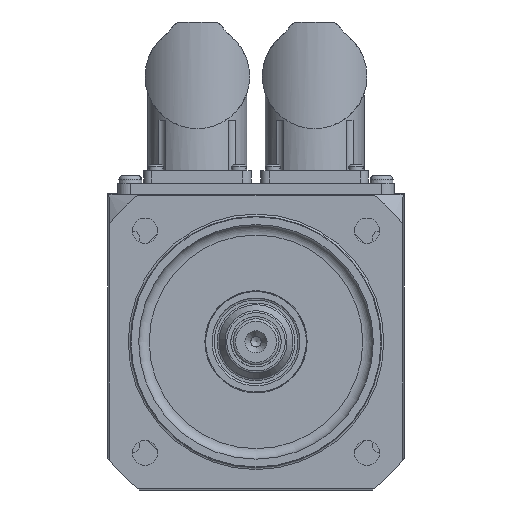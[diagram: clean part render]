
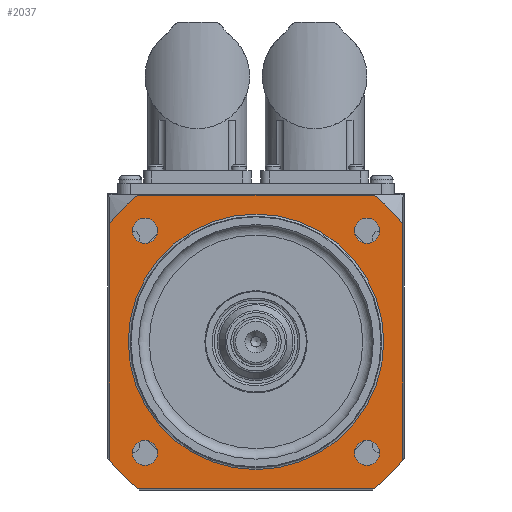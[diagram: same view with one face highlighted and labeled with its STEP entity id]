
A CAD part, front view. The second image highlights one B-rep face of the part: STEP entity #2037.
In plain terms, the highlighted planar face has unit normal (0, -1, 0).
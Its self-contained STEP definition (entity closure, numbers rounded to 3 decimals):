
#2037=ADVANCED_FACE('',(#6043,#3410,#6044,#6045,#6046,#6047),#3124,.T.);
#3124=PLANE('',#18810);
#3410=FACE_OUTER_BOUND('',#6695,.T.);
#4337=LINE('',#26301,#5191);
#4338=LINE('',#26305,#5192);
#4339=LINE('',#26309,#5193);
#4340=LINE('',#26313,#5194);
#5191=VECTOR('',#21060,1.);
#5192=VECTOR('',#21063,1.);
#5193=VECTOR('',#21066,1.);
#5194=VECTOR('',#21069,1.);
#6043=FACE_BOUND('',#6694,.T.);
#6044=FACE_BOUND('',#6696,.T.);
#6045=FACE_BOUND('',#6697,.T.);
#6046=FACE_BOUND('',#6698,.T.);
#6047=FACE_BOUND('',#6699,.T.);
#6694=EDGE_LOOP('',(#8287));
#6695=EDGE_LOOP('',(#8288,#8289,#8290,#8291,#8292,#8293,#8294,#8295));
#6696=EDGE_LOOP('',(#8296));
#6697=EDGE_LOOP('',(#8297));
#6698=EDGE_LOOP('',(#8298));
#6699=EDGE_LOOP('',(#8299));
#8287=ORIENTED_EDGE('',*,*,#15190,.T.);
#8288=ORIENTED_EDGE('',*,*,#15191,.T.);
#8289=ORIENTED_EDGE('',*,*,#15192,.T.);
#8290=ORIENTED_EDGE('',*,*,#15193,.T.);
#8291=ORIENTED_EDGE('',*,*,#15194,.T.);
#8292=ORIENTED_EDGE('',*,*,#15195,.T.);
#8293=ORIENTED_EDGE('',*,*,#15196,.T.);
#8294=ORIENTED_EDGE('',*,*,#15197,.T.);
#8295=ORIENTED_EDGE('',*,*,#15198,.F.);
#8296=ORIENTED_EDGE('',*,*,#15199,.T.);
#8297=ORIENTED_EDGE('',*,*,#15200,.T.);
#8298=ORIENTED_EDGE('',*,*,#15201,.T.);
#8299=ORIENTED_EDGE('',*,*,#15202,.T.);
#13373=VERTEX_POINT('',#26297);
#13374=VERTEX_POINT('',#26299);
#13375=VERTEX_POINT('',#26300);
#13376=VERTEX_POINT('',#26302);
#13377=VERTEX_POINT('',#26304);
#13378=VERTEX_POINT('',#26306);
#13379=VERTEX_POINT('',#26308);
#13380=VERTEX_POINT('',#26310);
#13381=VERTEX_POINT('',#26312);
#13382=VERTEX_POINT('',#26315);
#13383=VERTEX_POINT('',#26317);
#13384=VERTEX_POINT('',#26319);
#13385=VERTEX_POINT('',#26321);
#15190=EDGE_CURVE('',#13373,#13373,#17713,.T.);
#15191=EDGE_CURVE('',#13374,#13375,#17714,.T.);
#15192=EDGE_CURVE('',#13375,#13376,#4337,.T.);
#15193=EDGE_CURVE('',#13376,#13377,#17715,.T.);
#15194=EDGE_CURVE('',#13377,#13378,#4338,.T.);
#15195=EDGE_CURVE('',#13378,#13379,#17716,.T.);
#15196=EDGE_CURVE('',#13379,#13380,#4339,.T.);
#15197=EDGE_CURVE('',#13380,#13381,#17717,.T.);
#15198=EDGE_CURVE('',#13374,#13381,#4340,.T.);
#15199=EDGE_CURVE('',#13382,#13382,#17718,.T.);
#15200=EDGE_CURVE('',#13383,#13383,#17719,.T.);
#15201=EDGE_CURVE('',#13384,#13384,#17720,.T.);
#15202=EDGE_CURVE('',#13385,#13385,#17721,.T.);
#17713=CIRCLE('',#18801,30.5);
#17714=CIRCLE('',#18802,45.);
#17715=CIRCLE('',#18803,45.);
#17716=CIRCLE('',#18804,45.);
#17717=CIRCLE('',#18805,45.);
#17718=CIRCLE('',#18806,3.);
#17719=CIRCLE('',#18807,3.);
#17720=CIRCLE('',#18808,3.);
#17721=CIRCLE('',#18809,3.);
#18801=AXIS2_PLACEMENT_3D('',#26296,#21056,#21057);
#18802=AXIS2_PLACEMENT_3D('',#26298,#21058,#21059);
#18803=AXIS2_PLACEMENT_3D('',#26303,#21061,#21062);
#18804=AXIS2_PLACEMENT_3D('',#26307,#21064,#21065);
#18805=AXIS2_PLACEMENT_3D('',#26311,#21067,#21068);
#18806=AXIS2_PLACEMENT_3D('',#26314,#21070,#21071);
#18807=AXIS2_PLACEMENT_3D('',#26316,#21072,#21073);
#18808=AXIS2_PLACEMENT_3D('',#26318,#21074,#21075);
#18809=AXIS2_PLACEMENT_3D('',#26320,#21076,#21077);
#18810=AXIS2_PLACEMENT_3D('',#26322,#21078,#21079);
#21056=DIRECTION('',(0.,1.,0.));
#21057=DIRECTION('',(0.,0.,-1.));
#21058=DIRECTION('',(0.,-1.,0.));
#21059=DIRECTION('',(0.,0.,1.));
#21060=DIRECTION('',(1.,0.,0.));
#21061=DIRECTION('',(0.,-1.,0.));
#21062=DIRECTION('',(0.,0.,1.));
#21063=DIRECTION('',(0.,0.,1.));
#21064=DIRECTION('',(0.,-1.,0.));
#21065=DIRECTION('',(0.,0.,1.));
#21066=DIRECTION('',(-1.,0.,0.));
#21067=DIRECTION('',(0.,-1.,0.));
#21068=DIRECTION('',(0.,0.,1.));
#21069=DIRECTION('',(0.,0.,1.));
#21070=DIRECTION('',(0.,1.,0.));
#21071=DIRECTION('',(-1.,0.,0.));
#21072=DIRECTION('',(0.,1.,0.));
#21073=DIRECTION('',(0.,0.,-1.));
#21074=DIRECTION('',(0.,1.,0.));
#21075=DIRECTION('',(1.,0.,0.));
#21076=DIRECTION('',(0.,1.,0.));
#21077=DIRECTION('',(0.,0.,1.));
#21078=DIRECTION('',(0.,-1.,0.));
#21079=DIRECTION('',(0.,0.,-1.));
#26296=CARTESIAN_POINT('',(0.,-0.5,0.));
#26297=CARTESIAN_POINT('',(0.,-0.5,-30.5));
#26298=CARTESIAN_POINT('',(0.,-0.5,0.));
#26299=CARTESIAN_POINT('',(-35.,-0.5,-28.284));
#26300=CARTESIAN_POINT('',(-28.284,-0.5,-35.));
#26301=CARTESIAN_POINT('',(0.,-0.5,-35.));
#26302=CARTESIAN_POINT('',(28.284,-0.5,-35.));
#26303=CARTESIAN_POINT('',(0.,-0.5,0.));
#26304=CARTESIAN_POINT('',(35.,-0.5,-28.284));
#26305=CARTESIAN_POINT('',(35.,-0.5,-35.));
#26306=CARTESIAN_POINT('',(35.,-0.5,28.284));
#26307=CARTESIAN_POINT('',(0.,-0.5,0.));
#26308=CARTESIAN_POINT('',(28.284,-0.5,35.));
#26309=CARTESIAN_POINT('',(0.,-0.5,35.));
#26310=CARTESIAN_POINT('',(-28.284,-0.5,35.));
#26311=CARTESIAN_POINT('',(0.,-0.5,0.));
#26312=CARTESIAN_POINT('',(-35.,-0.5,28.284));
#26313=CARTESIAN_POINT('',(-35.,-0.5,-35.));
#26314=CARTESIAN_POINT('',(-26.517,-0.5,-26.517));
#26315=CARTESIAN_POINT('',(-29.517,-0.5,-26.517));
#26316=CARTESIAN_POINT('',(26.517,-0.5,-26.517));
#26317=CARTESIAN_POINT('',(26.517,-0.5,-29.517));
#26318=CARTESIAN_POINT('',(26.517,-0.5,26.517));
#26319=CARTESIAN_POINT('',(29.517,-0.5,26.517));
#26320=CARTESIAN_POINT('',(-26.517,-0.5,26.517));
#26321=CARTESIAN_POINT('',(-26.517,-0.5,29.517));
#26322=CARTESIAN_POINT('',(0.,-0.5,-35.));
